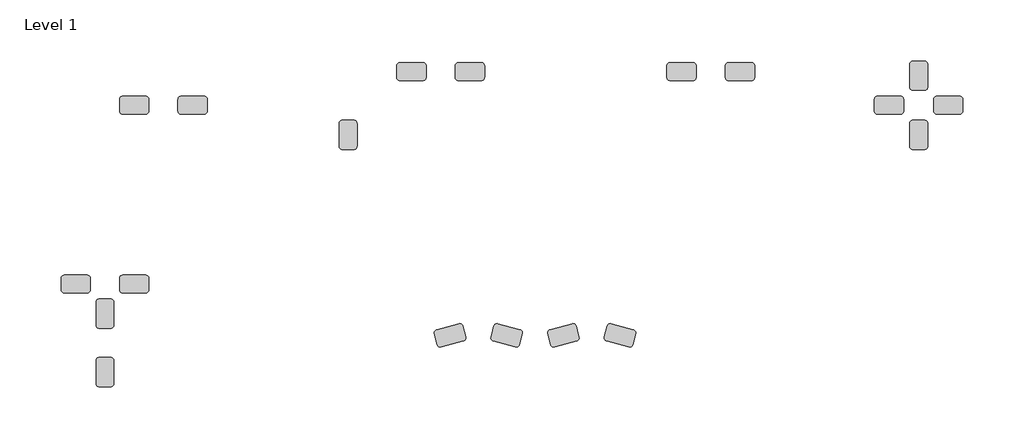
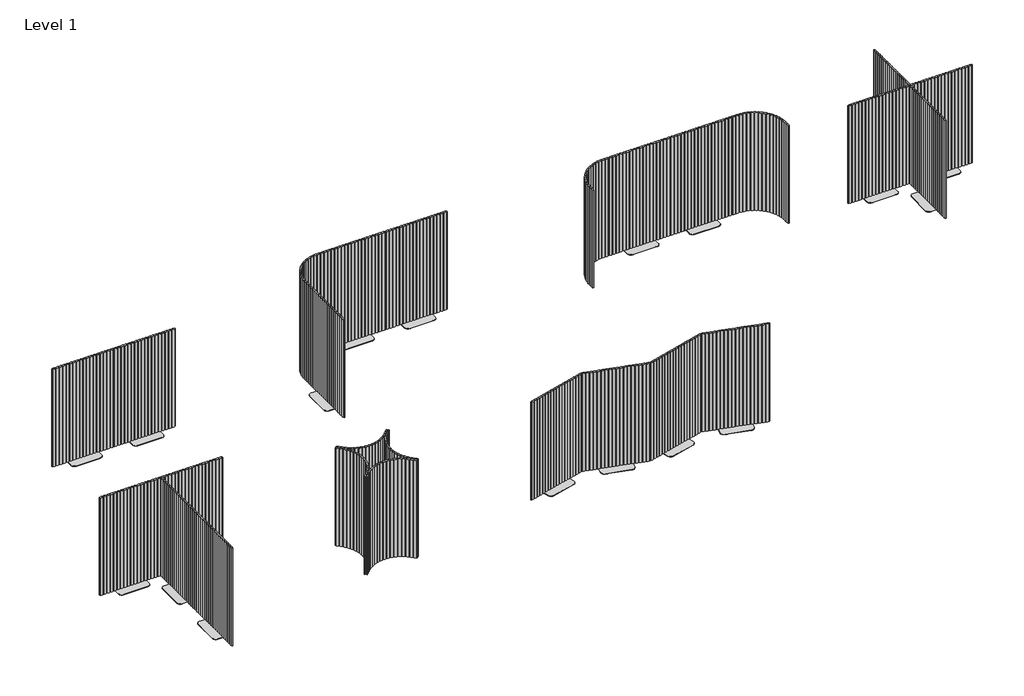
# One storey, incomplete: 26 furniture elements.
"""IFC4 building model written with IfcOpenShell, lengths in millimetres."""

from ifc_helpers import new_model, si_unit, origin, place, context, project, spatial, transform, mapped, element, save
from components import furniture_baa1f8cb, furniture_e89c4618, square_end_608f2f8a, square_end_dfce1c3f

model = new_model("IFC4")

# Units and contexts
model_context = context("Model", 3, world=origin())
ifc_project = project(units=[si_unit("LENGTHUNIT", "METRE", prefix="MILLI")], contexts=[model_context])

# Site, building, storey
site = spatial("IfcSite", under=ifc_project)
building = spatial("IfcBuilding", under=site)
storey = spatial("IfcBuildingStorey", under=building, Name="Level 1", Elevation=0.0)

# Furniture
placement = place(None, origin())
furniture_shape = furniture_baa1f8cb(model_context)
element("IfcFurniture", 1, ObjectType="KFI Studios - Calm - Curved Screen : KFI Studios - Calm - Curved Screen", at=placement, inside=storey, context=model_context, shape_type="MappedRepresentation", body=[
    mapped(furniture_shape, transform((4528.9057393, 2979.5962744, 0.0), x_axis=(-0.7071067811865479, 0.7071067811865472, 0.0), y_axis=(-0.7071067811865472, -0.7071067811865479, 0.0), z_axis=(0.0, 0.0, 1.0))),
])
element("IfcFurniture", 2, ObjectType="KFI Studios - Calm - Curved Screen : KFI Studios - Calm - Curved Screen", at=placement, inside=storey, context=model_context, shape_type="MappedRepresentation", body=[
    mapped(furniture_shape, transform((-3491.7427048, -753.8454854, 0.0), x_axis=(1.0, 0.0, 0.0), y_axis=(0.0, 1.0, 0.0), z_axis=(0.0, 0.0, 1.0))),
])
element("IfcFurniture", 3, ObjectType="KFI Studios - Calm - Curved Screen : KFI Studios - Calm - Curved Screen", at=placement, inside=storey, context=model_context, shape_type="MappedRepresentation", body=[
    mapped(furniture_shape, transform((-3193.7123363, -1051.8758538, 0.0), x_axis=(0.0, -1.0, 0.0), y_axis=(1.0, 0.0, 0.0), z_axis=(0.0, 0.0, 1.0))),
])
furniture_2_shape = furniture_e89c4618(model_context)
element("IfcFurniture", 4, ObjectType="KFI Studios - Calm - Curved Screen : KFI Studios - Calm - Curved Screen", at=placement, inside=storey, context=model_context, shape_type="MappedRepresentation", body=[
    mapped(furniture_2_shape, transform((-2163.7458642, 2979.5962744, 0.0), x_axis=(0.7071067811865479, 0.7071067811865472, 0.0), y_axis=(-0.7071067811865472, 0.7071067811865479, 0.0), z_axis=(0.0, 0.0, 1.0))),
])
element("IfcFurniture", 5, ObjectType="KFI Studios - Calm - Curved Screen : KFI Studios - Calm - Curved Screen", at=placement, inside=storey, context=model_context, shape_type="MappedRepresentation", body=[
    mapped(furniture_2_shape, transform((2043.3821566, 2979.5962744, 0.0), x_axis=(0.7071067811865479, 0.7071067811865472, 0.0), y_axis=(-0.7071067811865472, 0.7071067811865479, 0.0), z_axis=(0.0, 0.0, 1.0))),
])
element("IfcFurniture", 6, ObjectType="KFI Studios - Calm - Curved Screen : KFI Studios - Calm - Curved Screen", at=placement, inside=storey, context=model_context, shape_type="MappedRepresentation", body=[
    mapped(furniture_2_shape, transform((-3789.7730733, -1051.8758538, 0.0), x_axis=(0.0, -1.0, 0.0), y_axis=(1.0, 0.0, 0.0), z_axis=(0.0, 0.0, 1.0))),
])
element("IfcFurniture", 7, ObjectType="KFI Studios - Calm - Curved Screen : KFI Studios - Calm - Curved Screen", at=placement, inside=storey, context=model_context, shape_type="MappedRepresentation", body=[
    mapped(furniture_2_shape, transform((-3491.7427048, -1349.9062223, 0.0), x_axis=(1.0, 0.0, 0.0), y_axis=(0.0, 1.0, 0.0), z_axis=(0.0, 0.0, 1.0))),
])
square_end_shape = square_end_608f2f8a(model_context)
element("IfcFurniture", 8, ObjectType="KFI Studios - Calm - Straight Screen : Square End", at=placement, inside=storey, context=model_context, shape_type="MappedRepresentation", body=[
    mapped(square_end_shape, transform((-4783.3772471, 2652.9610088, 0.0), x_axis=(1.0, 0.0, 0.0), y_axis=(0.0, 1.0, 0.0), z_axis=(0.0, 0.0, 1.0))),
])
element("IfcFurniture", 9, ObjectType="KFI Studios - Calm - Straight Screen : Square End", at=placement, inside=storey, context=model_context, shape_type="MappedRepresentation", body=[
    mapped(square_end_shape, transform((-465.9840476, 3178.7679121, 0.0), x_axis=(1.0, 0.0, 0.0), y_axis=(0.0, 1.0, 0.0), z_axis=(0.0, 0.0, 1.0))),
])
element("IfcFurniture", 10, ObjectType="KFI Studios - Calm - Straight Screen : Square End", at=placement, inside=storey, context=model_context, shape_type="MappedRepresentation", body=[
    mapped(square_end_shape, transform((-2362.917502, 2191.8345083, 0.0), x_axis=(0.0, 1.0, 0.0), y_axis=(-1.0, 0.0, 0.0), z_axis=(0.0, 0.0, 1.0))),
])
element("IfcFurniture", 11, ObjectType="KFI Studios - Calm - Straight Screen : Square End", at=placement, inside=storey, context=model_context, shape_type="MappedRepresentation", body=[
    mapped(square_end_shape, transform((3741.1439732, 3178.7679121, 0.0), x_axis=(1.0, 0.0, 0.0), y_axis=(0.0, 1.0, 0.0), z_axis=(0.0, 0.0, 1.0))),
])
element("IfcFurniture", 12, ObjectType="KFI Studios - Calm - Straight Screen : Square End", at=placement, inside=storey, context=model_context, shape_type="MappedRepresentation", body=[
    mapped(square_end_shape, transform((6062.0806797, 2652.9610088, 0.0), x_axis=(1.0, 0.0, 0.0), y_axis=(0.0, 1.0, 0.0), z_axis=(0.0, 0.0, 1.0))),
])
element("IfcFurniture", 13, ObjectType="KFI Studios - Calm - Straight Screen : Square End", at=placement, inside=storey, context=model_context, shape_type="MappedRepresentation", body=[
    mapped(square_end_shape, transform((6523.2071802, 3114.0875093, 0.0), x_axis=(0.0, 1.0, 0.0), y_axis=(-1.0, 0.0, 0.0), z_axis=(0.0, 0.0, 1.0))),
])
element("IfcFurniture", 14, ObjectType="KFI Studios - Calm - Straight Screen : Square End", at=placement, inside=storey, context=model_context, shape_type="MappedRepresentation", body=[
    mapped(square_end_shape, transform((-6603.3773482, -135.749328, 0.0), x_axis=(1.0, 0.0, 0.0), y_axis=(0.0, 1.0, 0.0), z_axis=(0.0, 0.0, 1.0))),
])
element("IfcFurniture", 15, ObjectType="KFI Studios - Calm - Straight Screen : Square End", at=placement, inside=storey, context=model_context, shape_type="MappedRepresentation", body=[
    mapped(square_end_shape, transform((-6148.3773229, -1506.8758791, 0.0), x_axis=(0.0, 1.0, 0.0), y_axis=(-1.0, 0.0, 0.0), z_axis=(0.0, 0.0, 1.0))),
])
element("IfcFurniture", 16, ObjectType="KFI Studios - Calm - Straight Screen : Square End", at=placement, inside=storey, context=model_context, shape_type="MappedRepresentation", body=[
    mapped(square_end_shape, transform((107.8299302, -934.1131818, 0.0), x_axis=(0.9659258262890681, -0.2588190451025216, 0.0), y_axis=(0.2588190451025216, 0.9659258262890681, 0.0), z_axis=(0.0, 0.0, 1.0))),
])
element("IfcFurniture", 17, ObjectType="KFI Studios - Calm - Straight Screen : Square End", at=placement, inside=storey, context=model_context, shape_type="MappedRepresentation", body=[
    mapped(square_end_shape, transform((1872.1576256, -934.1131818, 0.0), x_axis=(0.9659258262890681, -0.2588190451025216, 0.0), y_axis=(0.2588190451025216, 0.9659258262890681, 0.0), z_axis=(0.0, 0.0, 1.0))),
])
square_end_2_shape = square_end_dfce1c3f(model_context)
element("IfcFurniture", 18, ObjectType="KFI Studios - Calm - Straight Screen : Square End", at=placement, inside=storey, context=model_context, shape_type="MappedRepresentation", body=[
    mapped(square_end_2_shape, transform((-5693.3772976, 2652.9610088, 0.0), x_axis=(-1.0, 0.0, 0.0), y_axis=(0.0, -1.0, 0.0), z_axis=(0.0, 0.0, 1.0))),
])
element("IfcFurniture", 19, ObjectType="KFI Studios - Calm - Straight Screen : Square End", at=placement, inside=storey, context=model_context, shape_type="MappedRepresentation", body=[
    mapped(square_end_2_shape, transform((-1375.9840981, 3178.7679121, 0.0), x_axis=(-1.0, 0.0, 0.0), y_axis=(0.0, -1.0, 0.0), z_axis=(0.0, 0.0, 1.0))),
])
element("IfcFurniture", 20, ObjectType="KFI Studios - Calm - Straight Screen : Square End", at=placement, inside=storey, context=model_context, shape_type="MappedRepresentation", body=[
    mapped(square_end_2_shape, transform((2831.1439227, 3178.7679121, 0.0), x_axis=(-1.0, 0.0, 0.0), y_axis=(0.0, -1.0, 0.0), z_axis=(0.0, 0.0, 1.0))),
])
element("IfcFurniture", 21, ObjectType="KFI Studios - Calm - Straight Screen : Square End", at=placement, inside=storey, context=model_context, shape_type="MappedRepresentation", body=[
    mapped(square_end_2_shape, transform((6984.3336808, 2652.9610088, 0.0), x_axis=(-1.0, 0.0, 0.0), y_axis=(0.0, -1.0, 0.0), z_axis=(0.0, 0.0, 1.0))),
])
element("IfcFurniture", 22, ObjectType="KFI Studios - Calm - Straight Screen : Square End", at=placement, inside=storey, context=model_context, shape_type="MappedRepresentation", body=[
    mapped(square_end_2_shape, transform((6523.2071802, 2191.8345083, 0.0), x_axis=(0.0, -1.0, 0.0), y_axis=(1.0, 0.0, 0.0), z_axis=(0.0, 0.0, 1.0))),
])
element("IfcFurniture", 23, ObjectType="KFI Studios - Calm - Straight Screen : Square End", at=placement, inside=storey, context=model_context, shape_type="MappedRepresentation", body=[
    mapped(square_end_2_shape, transform((-5693.3772976, -135.749328, 0.0), x_axis=(-1.0, 0.0, 0.0), y_axis=(0.0, -1.0, 0.0), z_axis=(0.0, 0.0, 1.0))),
])
element("IfcFurniture", 24, ObjectType="KFI Studios - Calm - Straight Screen : Square End", at=placement, inside=storey, context=model_context, shape_type="MappedRepresentation", body=[
    mapped(square_end_2_shape, transform((-6148.3773229, -596.8758286, 0.0), x_axis=(0.0, -1.0, 0.0), y_axis=(1.0, 0.0, 0.0), z_axis=(0.0, 0.0, 1.0))),
])
element("IfcFurniture", 25, ObjectType="KFI Studios - Calm - Straight Screen : Square End", at=placement, inside=storey, context=model_context, shape_type="MappedRepresentation", body=[
    mapped(square_end_2_shape, transform((-774.3339175, -934.1131818, 0.0), x_axis=(-0.965925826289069, -0.2588190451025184, 0.0), y_axis=(0.2588190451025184, -0.965925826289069, 0.0), z_axis=(0.0, 0.0, 1.0))),
])
element("IfcFurniture", 26, ObjectType="KFI Studios - Calm - Straight Screen : Square End", at=placement, inside=storey, context=model_context, shape_type="MappedRepresentation", body=[
    mapped(square_end_2_shape, transform((989.9937779, -934.1131818, 0.0), x_axis=(-0.965925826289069, -0.2588190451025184, 0.0), y_axis=(0.2588190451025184, -0.965925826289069, 0.0), z_axis=(0.0, 0.0, 1.0))),
])

save(model, "model.ifc")
